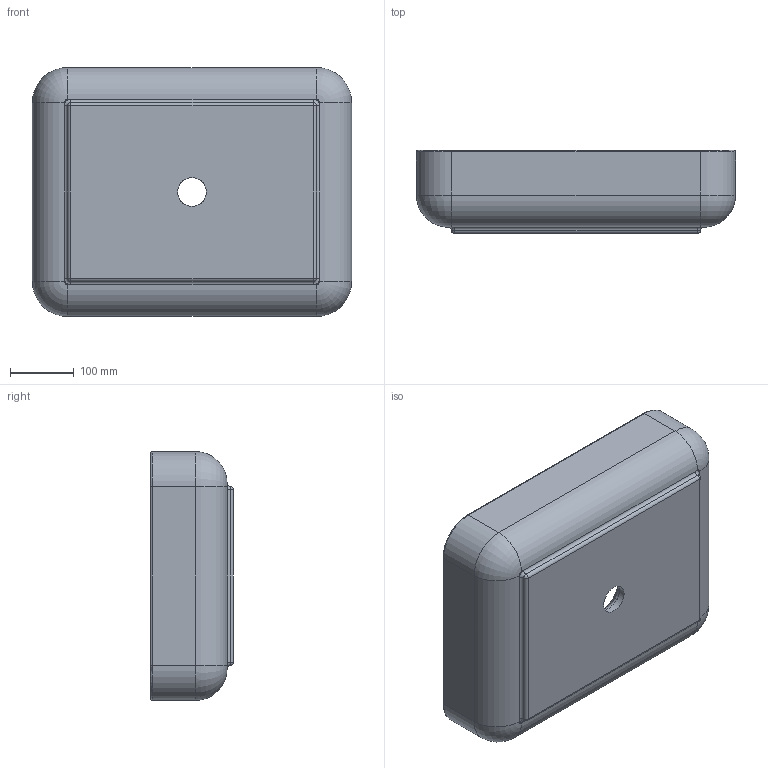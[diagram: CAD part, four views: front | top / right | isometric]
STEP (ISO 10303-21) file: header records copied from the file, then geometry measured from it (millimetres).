
FILE_DESCRIPTION (( 'STEP AP203' ), '1' );
FILE_NAME ('F70123 F70124 Marmic Rectangle WBL 500x390x130.STEP', '2021-12-02T09:08:33', ( 'RIHO' ), ( '' ), 'SwSTEP 2.0', 'SolidWorks 2020', '' );
FILE_SCHEMA (( 'CONFIG_CONTROL_DESIGN' ));
Length unit declared in the file: millimetre
Products named in the file (1): F70123 F70124 Marmic Rectangle WBL 500x390x130
Bounding box: 500 x 130 x 390 mm (x, y, z)
Volume: 8740849.2 mm3; surface area: 635667.3 mm2
Topology: 1 solids, 1 shells, 98 faces, 223 edges, 122 vertices
Faces by surface type: bspline 50, cylinder 21, torus 12, plane 11, sphere 4
Full cylindrical faces by diameter (mm): 45 x1
Entity records: 7991 total; most frequent: CARTESIAN_POINT 6122, ORIENTED_EDGE 434, DIRECTION 278, EDGE_CURVE 217, VERTEX_POINT 121, AXIS2_PLACEMENT_3D 118, B_SPLINE_CURVE_WITH_KNOTS 106, EDGE_LOOP 100
